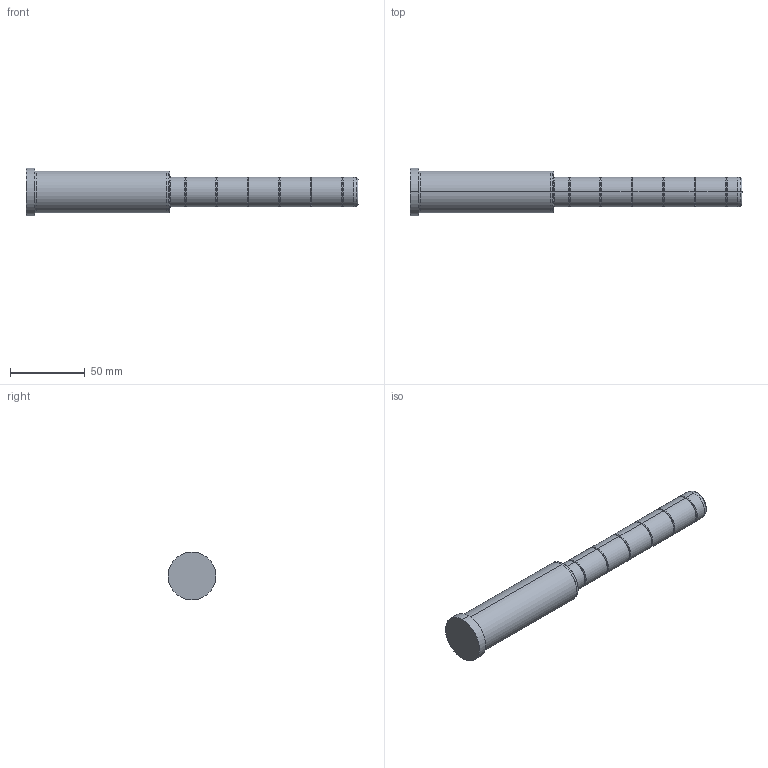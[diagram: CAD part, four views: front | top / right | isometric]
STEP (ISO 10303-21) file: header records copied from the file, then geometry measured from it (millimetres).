
FILE_DESCRIPTION( ( 'STEP AP203' ), '1' );
FILE_NAME( 'C:/Projects/D02 - 20x96x126.step', '2003-01-04T13:45:20', ( ' ' ), ( ' ' ), 'XStep 1.0', ' ', ' ' );
FILE_SCHEMA( ( 'CONFIG_CONTROL_DESIGN' ) );
Length unit declared in the file: metre
Products named in the file (1): 1
Bounding box: 222 x 32 x 32 mm (x, y, z)
Volume: 99671.3 mm3; surface area: 18146.4 mm2
Topology: 1 solids, 1 shells, 60 faces, 118 edges, 64 vertices
Faces by surface type: bspline 34, revolution 26
Entity records: 1919 total; most frequent: CARTESIAN_POINT 817, ORIENTED_EDGE 236, DIRECTION 182, EDGE_CURVE 118, AXIS2_PLACEMENT_3D 65, EDGE_LOOP 64, VERTEX_POINT 64, CIRCLE 64
